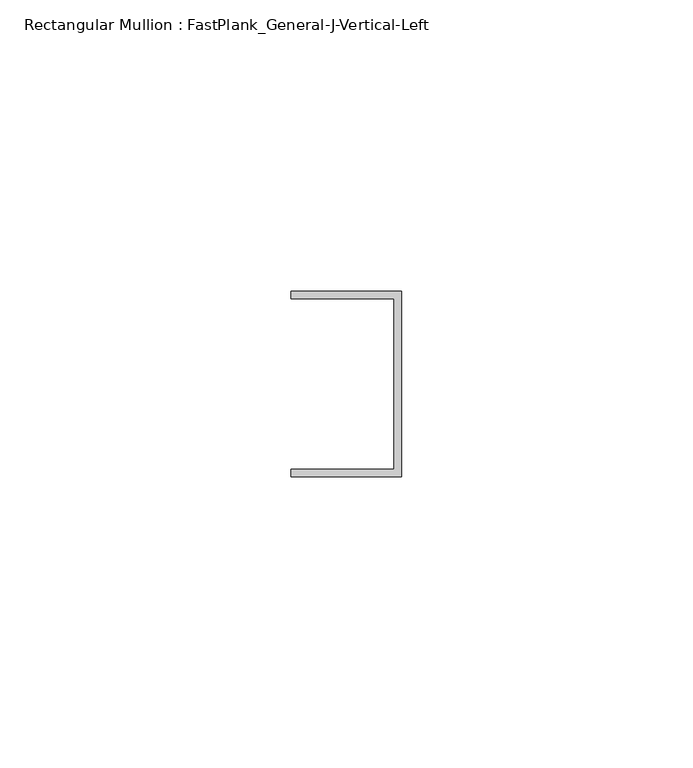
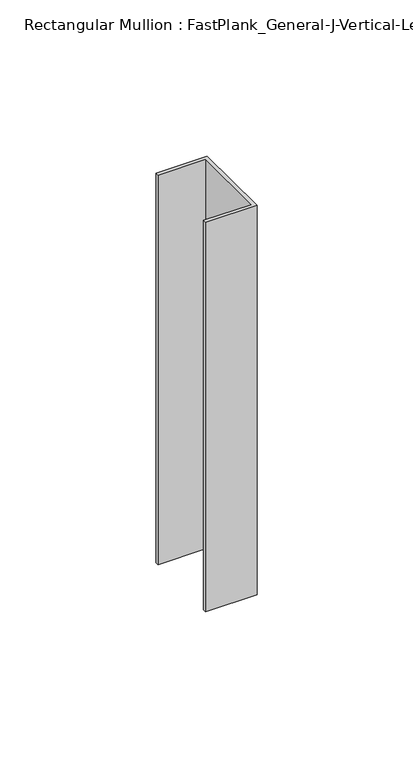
"""IFC4 building model written with IfcOpenShell, lengths in millimetres: member geometry, Rectangular Mullion : FastPlank_General-J-Vertical-Left."""

from ifc_helpers import new_model, si_unit, frame, origin, place, context, project, spatial, polyline, outline, extrude, source, transform, mapped, element, save


def rectangular_mullion_fastplank_general_j_vertical_left_623ef479(model_context):
    return source(origin(), model_context, "Body", "SweptSolid", [
        extrude(outline(polyline([(0.0, 10.2620691), (0.0, -21.6412691), (-19.05, -21.6412691), (-19.05, -20.3412717), (-1.3000189, -20.3412717), (-1.3000189, 8.9620717), (-19.05, 8.9620717), (-19.05, 10.2620691), (0.0, 10.2620691)])), frame((0.0, 0.0, -152.4), z_axis=(0.0, 0.0, 1.0), x_axis=(1.0, 0.0, 0.0)), (0.0, 0.0, 1.0), 152.4),
    ])


if __name__ == "__main__":
    model = new_model("IFC4")
    model_context = context("Model", 3, world=origin())
    ifc_project = project(units=[si_unit("LENGTHUNIT", "METRE", prefix="MILLI")], contexts=[model_context])
    site = spatial("IfcSite", under=ifc_project)
    building = spatial("IfcBuilding", under=site)
    placement = place(None, origin())
    rectangular_mullion_fastplank_general_j_vertical_left_shape = rectangular_mullion_fastplank_general_j_vertical_left_623ef479(model_context)
    element("IfcMember", 1, ObjectType="Rectangular Mullion : FastPlank_General-J-Vertical-Left", at=placement, inside=building, context=model_context, shape_type="MappedRepresentation", body=[
        mapped(rectangular_mullion_fastplank_general_j_vertical_left_shape, transform((0.0, 0.0, 0.0), x_axis=(1.0, 0.0, 0.0), y_axis=(0.0, 1.0, 0.0), z_axis=(0.0, 0.0, 1.0))),
    ])
    save(model, "model.ifc")
